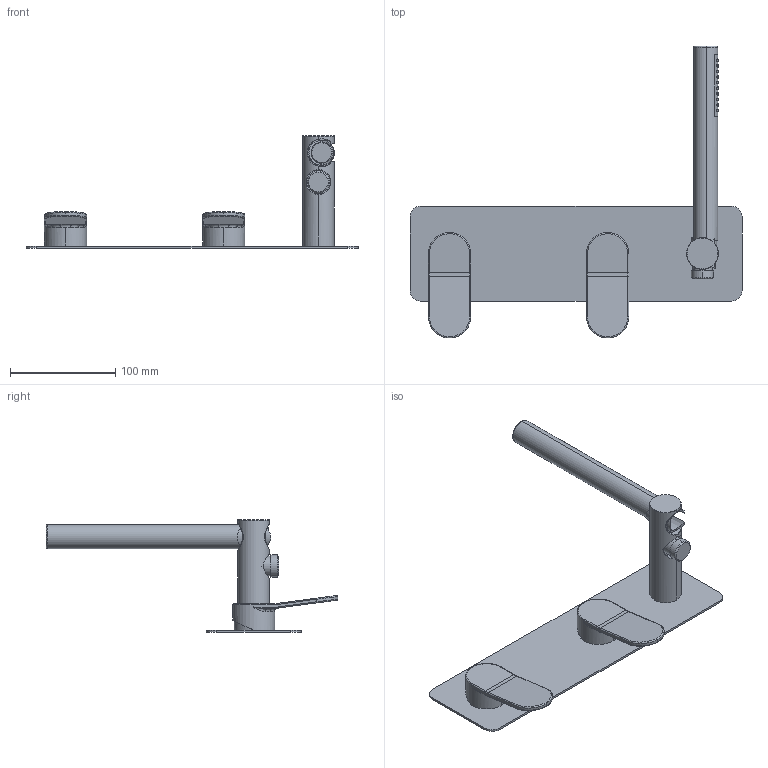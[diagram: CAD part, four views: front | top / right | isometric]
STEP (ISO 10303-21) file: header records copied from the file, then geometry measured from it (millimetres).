
FILE_DESCRIPTION (( 'STEP AP214' ), '1' );
FILE_NAME ('82229710 x architetti.STEP', '2025-01-15T09:10:28', ( '' ), ( '' ), 'SwSTEP 2.0', 'SolidWorks 2020', '' );
FILE_SCHEMA (( 'AUTOMOTIVE_DESIGN' ));
Length unit declared in the file: millimetre
Products named in the file (1): 82229710 x architetti
Bounding box: 315 x 276.88 x 106.7 mm (x, y, z)
Volume: 284997.9 mm3; surface area: 105411.1 mm2
Topology: 3 solids, 4 shells, 302 faces, 683 edges, 430 vertices
Faces by surface type: cylinder 197, plane 47, bspline 42, cone 12, torus 4
Entity records: 18115 total; most frequent: CARTESIAN_POINT 8854, ORIENTED_EDGE 1354, DIRECTION 1051, EDGE_CURVE 677, VERTEX_POINT 430, AXIS2_PLACEMENT_3D 407, EDGE_LOOP 349, ADVANCED_FACE 302
